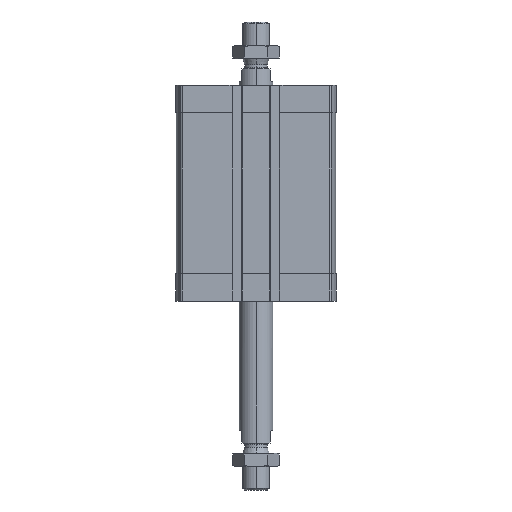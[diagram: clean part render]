
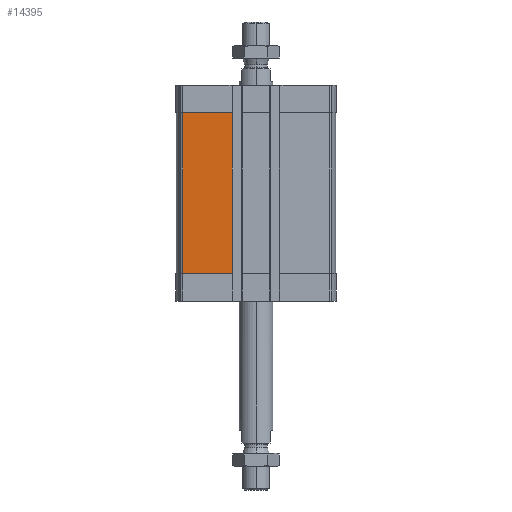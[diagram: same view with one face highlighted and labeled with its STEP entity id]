
A CAD part, left-side view. The second image highlights one B-rep face of the part: STEP entity #14395.
In plain terms, the highlighted planar face has unit normal (-1, 0, 0).
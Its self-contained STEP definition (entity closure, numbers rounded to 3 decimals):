
#883 = EDGE_CURVE ( 'NONE', #13249, #13558, #5899, .T. ) ;
#1457 = PLANE ( 'NONE',  #11685 ) ;
#1760 = EDGE_CURVE ( 'NONE', #10994, #13249, #10774, .T. ) ;
#1784 = VECTOR ( 'NONE', #7996, 1000. ) ;
#2325 = LINE ( 'NONE', #6376, #10816 ) ;
#3083 = CARTESIAN_POINT ( 'NONE',  ( -47.5, 43.743, -112.5 ) ) ;
#3422 = ORIENTED_EDGE ( 'NONE', *, *, #883, .F. ) ;
#3916 = EDGE_LOOP ( 'NONE', ( #3422, #14063, #16385, #9825 ) ) ;
#4336 = FACE_OUTER_BOUND ( 'NONE', #3916, .T. ) ;
#4914 = VECTOR ( 'NONE', #16893, 1000. ) ;
#5383 = DIRECTION ( 'NONE',  ( 0., 0., 1. ) ) ;
#5899 = LINE ( 'NONE', #11394, #4914 ) ;
#6376 = CARTESIAN_POINT ( 'NONE',  ( -47.5, 14.3, -112.5 ) ) ;
#6569 = VECTOR ( 'NONE', #14913, 1000. ) ;
#7996 = DIRECTION ( 'NONE',  ( 0., -1., 0. ) ) ;
#8002 = CARTESIAN_POINT ( 'NONE',  ( -47.5, 14.3, -112.5 ) ) ;
#8159 = LINE ( 'NONE', #13564, #1784 ) ;
#8303 = DIRECTION ( 'NONE',  ( -1., 0., 0. ) ) ;
#8663 = CARTESIAN_POINT ( 'NONE',  ( -47.5, 43.743, -112.5 ) ) ;
#9825 = ORIENTED_EDGE ( 'NONE', *, *, #10604, .T. ) ;
#10010 = DIRECTION ( 'NONE',  ( 0., 0., 1. ) ) ;
#10604 = EDGE_CURVE ( 'NONE', #15511, #13558, #2325, .T. ) ;
#10774 = LINE ( 'NONE', #11858, #6569 ) ;
#10816 = VECTOR ( 'NONE', #5383, 1000. ) ;
#10994 = VERTEX_POINT ( 'NONE', #3083 ) ;
#11086 = CARTESIAN_POINT ( 'NONE',  ( -47.5, 43.743, -16.5 ) ) ;
#11394 = CARTESIAN_POINT ( 'NONE',  ( -47.5, 43.743, -16.5 ) ) ;
#11685 = AXIS2_PLACEMENT_3D ( 'NONE', #8663, #8303, #10010 ) ;
#11858 = CARTESIAN_POINT ( 'NONE',  ( -47.5, 43.743, -112.5 ) ) ;
#12319 = EDGE_CURVE ( 'NONE', #10994, #15511, #8159, .T. ) ;
#12658 = CARTESIAN_POINT ( 'NONE',  ( -47.5, 14.3, -16.5 ) ) ;
#13249 = VERTEX_POINT ( 'NONE', #11086 ) ;
#13558 = VERTEX_POINT ( 'NONE', #12658 ) ;
#13564 = CARTESIAN_POINT ( 'NONE',  ( -47.5, 43.743, -112.5 ) ) ;
#14063 = ORIENTED_EDGE ( 'NONE', *, *, #1760, .F. ) ;
#14395 = ADVANCED_FACE ( 'NONE', ( #4336 ), #1457, .T. ) ;
#14913 = DIRECTION ( 'NONE',  ( 0., 0., 1. ) ) ;
#15511 = VERTEX_POINT ( 'NONE', #8002 ) ;
#16385 = ORIENTED_EDGE ( 'NONE', *, *, #12319, .T. ) ;
#16893 = DIRECTION ( 'NONE',  ( 0., -1., 0. ) ) ;
